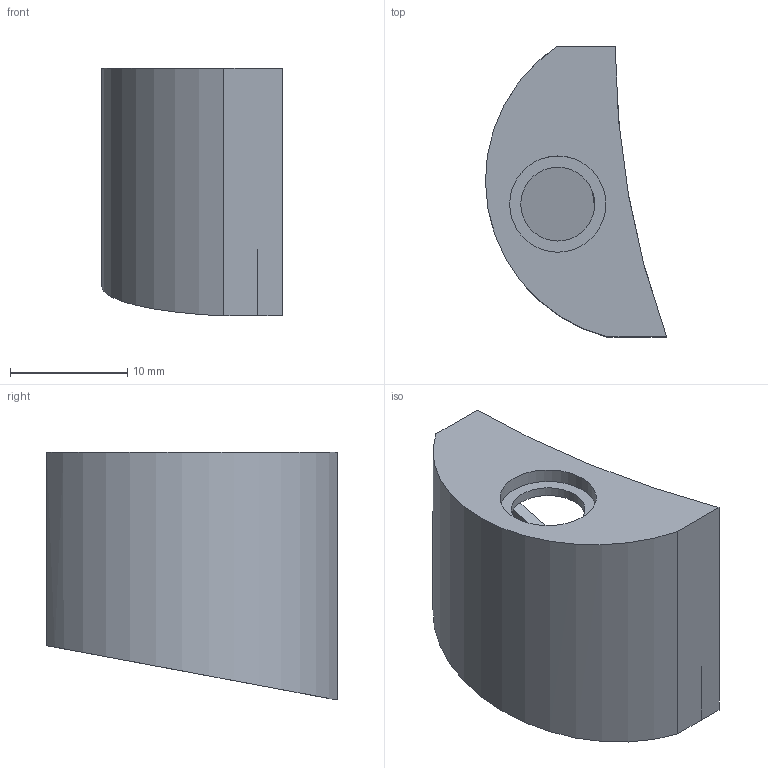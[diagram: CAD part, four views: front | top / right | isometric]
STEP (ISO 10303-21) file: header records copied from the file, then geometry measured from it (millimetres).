
FILE_DESCRIPTION(/* description */ (''),/* implementation_level */ '2;1');
FILE_NAME(/* name */ 'External part.step',/* time_stamp */ '2025-11-18T10:52:13+01:00',/* author */ (''),/* organization */ (''),/* preprocessor_version */ 'ST-DEVELOPER v20.1',/* originating_system */ 'Autodesk Translation Framework v14.21.0.0',/* authorisation */ '');
FILE_SCHEMA (('AUTOMOTIVE_DESIGN { 1 0 10303 214 3 1 1 }'));
Length unit declared in the file: millimetre
Products named in the file (1): Płytka tylna v2
Bounding box: 15.43 x 24.75 x 21.13 mm (x, y, z)
Volume: 1733.5 mm3; surface area: 3090.1 mm2
Topology: 1 solids, 1 shells, 25 faces, 60 edges, 40 vertices
Faces by surface type: plane 16, cylinder 9
Full cylindrical faces by diameter (mm): 6.3 x1, 8.2 x1
Entity records: 775 total; most frequent: DIRECTION 136, CARTESIAN_POINT 126, ORIENTED_EDGE 120, EDGE_CURVE 60, AXIS2_PLACEMENT_3D 50, VERTEX_POINT 40, LINE 36, VECTOR 36
